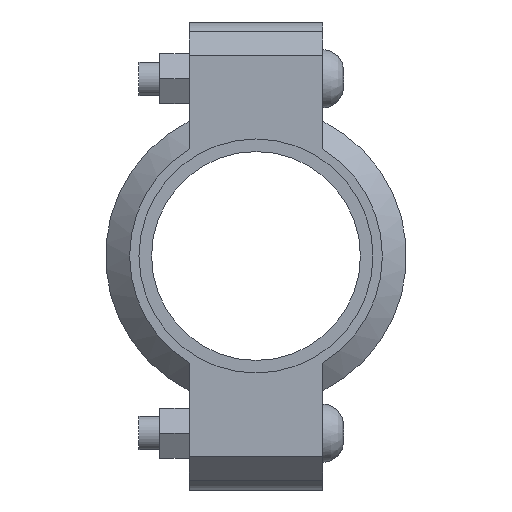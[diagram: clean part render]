
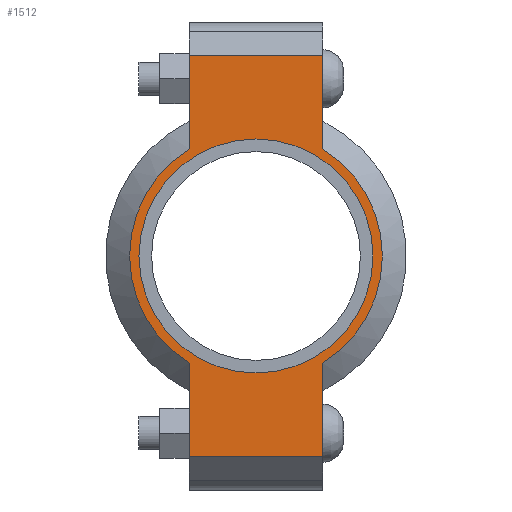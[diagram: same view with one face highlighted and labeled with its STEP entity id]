
A CAD part, left-side view. The second image highlights one B-rep face of the part: STEP entity #1512.
In plain terms, the highlighted planar face has unit normal (-1, 0, 0) as drawn and (0, 0, 1) by its records, which use the part's own axes.
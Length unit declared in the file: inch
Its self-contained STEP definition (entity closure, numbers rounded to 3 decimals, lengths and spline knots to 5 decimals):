
#192=LINE('',#2605,#283);
#200=LINE('',#2641,#291);
#207=LINE('',#2662,#298);
#216=LINE('',#2694,#307);
#217=LINE('',#2698,#308);
#218=LINE('',#2700,#309);
#283=VECTOR('',#2099,0.3937);
#291=VECTOR('',#2115,0.3937);
#298=VECTOR('',#2134,0.3937);
#307=VECTOR('',#2159,0.3937);
#308=VECTOR('',#2164,0.3937);
#309=VECTOR('',#2165,0.3937);
#361=FACE_BOUND('',#521,.T.);
#425=FACE_OUTER_BOUND('',#520,.T.);
#520=EDGE_LOOP('',(#1247,#1248,#1249,#1250,#1251,#1252,#1253,#1254));
#521=EDGE_LOOP('',(#1255));
#618=CIRCLE('',#1755,1.89);
#619=CIRCLE('',#1756,1.89);
#620=CIRCLE('',#1757,1.75);
#723=VERTEX_POINT('',#2602);
#724=VERTEX_POINT('',#2604);
#735=VERTEX_POINT('',#2636);
#736=VERTEX_POINT('',#2640);
#743=VERTEX_POINT('',#2659);
#744=VERTEX_POINT('',#2661);
#754=VERTEX_POINT('',#2697);
#755=VERTEX_POINT('',#2699);
#756=VERTEX_POINT('',#2702);
#887=EDGE_CURVE('',#724,#723,#192,.T.);
#901=EDGE_CURVE('',#736,#735,#200,.T.);
#911=EDGE_CURVE('',#744,#743,#207,.T.);
#926=EDGE_CURVE('',#736,#723,#216,.T.);
#927=EDGE_CURVE('',#735,#744,#618,.T.);
#928=EDGE_CURVE('',#754,#743,#217,.T.);
#929=EDGE_CURVE('',#754,#755,#218,.T.);
#930=EDGE_CURVE('',#755,#724,#619,.T.);
#931=EDGE_CURVE('',#756,#756,#620,.T.);
#1247=ORIENTED_EDGE('',*,*,#926,.F.);
#1248=ORIENTED_EDGE('',*,*,#901,.T.);
#1249=ORIENTED_EDGE('',*,*,#927,.T.);
#1250=ORIENTED_EDGE('',*,*,#911,.T.);
#1251=ORIENTED_EDGE('',*,*,#928,.F.);
#1252=ORIENTED_EDGE('',*,*,#929,.T.);
#1253=ORIENTED_EDGE('',*,*,#930,.T.);
#1254=ORIENTED_EDGE('',*,*,#887,.T.);
#1255=ORIENTED_EDGE('',*,*,#931,.T.);
#1366=PLANE('',#1754);
#1512=ADVANCED_FACE('',(#425,#361),#1366,.T.);
#1754=AXIS2_PLACEMENT_3D('',#2695,#2160,#2161);
#1755=AXIS2_PLACEMENT_3D('',#2696,#2162,#2163);
#1756=AXIS2_PLACEMENT_3D('',#2701,#2166,#2167);
#1757=AXIS2_PLACEMENT_3D('',#2703,#2168,#2169);
#2099=DIRECTION('',(-1.,0.,0.));
#2115=DIRECTION('',(1.,0.,0.));
#2134=DIRECTION('',(1.,0.,0.));
#2159=DIRECTION('',(0.,1.,0.));
#2160=DIRECTION('center_axis',(0.,0.,1.));
#2161=DIRECTION('ref_axis',(1.,0.,0.));
#2162=DIRECTION('center_axis',(0.,0.,1.));
#2163=DIRECTION('ref_axis',(-1.,0.,0.));
#2164=DIRECTION('',(0.,-1.,0.));
#2165=DIRECTION('',(-1.,0.,0.));
#2166=DIRECTION('center_axis',(0.,0.,1.));
#2167=DIRECTION('ref_axis',(-1.,0.,0.));
#2168=DIRECTION('center_axis',(0.,0.,-1.));
#2169=DIRECTION('ref_axis',(-1.,0.,0.));
#2602=CARTESIAN_POINT('',(-3.,1.,0.94));
#2604=CARTESIAN_POINT('',(-1.60378,1.,0.94));
#2605=CARTESIAN_POINT('',(-3.5,1.,0.94));
#2636=CARTESIAN_POINT('',(-1.60378,-1.,0.94));
#2640=CARTESIAN_POINT('',(-3.,-1.,0.94));
#2641=CARTESIAN_POINT('',(3.5,-1.,0.94));
#2659=CARTESIAN_POINT('',(3.,-1.,0.94));
#2661=CARTESIAN_POINT('',(1.60378,-1.,0.94));
#2662=CARTESIAN_POINT('',(3.5,-1.,0.94));
#2694=CARTESIAN_POINT('',(-3.,0.5,0.94));
#2695=CARTESIAN_POINT('Origin',(0.,0.,
0.94));
#2696=CARTESIAN_POINT('Origin',(0.,0.,0.94));
#2697=CARTESIAN_POINT('',(3.,1.,0.94));
#2698=CARTESIAN_POINT('',(3.,-0.5,0.94));
#2699=CARTESIAN_POINT('',(1.60378,1.,0.94));
#2700=CARTESIAN_POINT('',(-3.5,1.,0.94));
#2701=CARTESIAN_POINT('Origin',(0.,0.,0.94));
#2702=CARTESIAN_POINT('',(1.75,0.,0.94));
#2703=CARTESIAN_POINT('Origin',(0.,0.,0.94));
